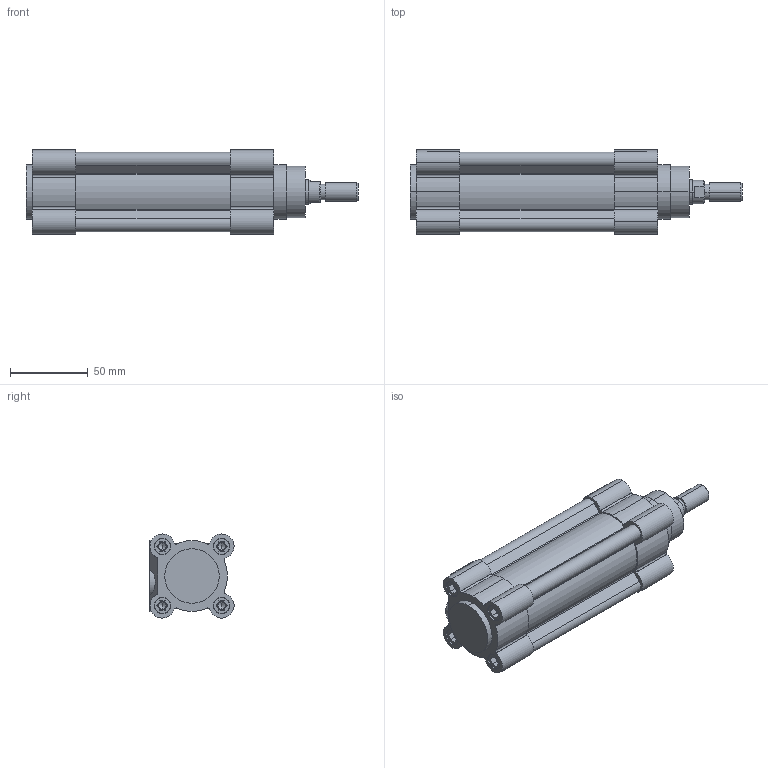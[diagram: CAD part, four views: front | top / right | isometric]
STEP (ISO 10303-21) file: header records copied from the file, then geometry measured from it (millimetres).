
FILE_DESCRIPTION (( 'STEP AP203' ), '1' );
FILE_NAME ('CPME40-50.STEP', '2025-02-24T14:16:36', ( '' ), ( '' ), 'SwSTEP 2.0', 'SolidWorks 2019', '' );
FILE_SCHEMA (( 'CONFIG_CONTROL_DESIGN' ));
Length unit declared in the file: millimetre
Products named in the file (1): CPME40-50
Bounding box: 213 x 53.99 x 53.99 mm (x, y, z)
Volume: 300805.6 mm3; surface area: 94107.3 mm2
Topology: 4 solids, 4 shells, 400 faces, 985 edges, 610 vertices
Faces by surface type: plane 191, cylinder 165, cone 44
Entity records: 11744 total; most frequent: DIRECTION 2149, CARTESIAN_POINT 2006, ORIENTED_EDGE 1930, EDGE_CURVE 965, AXIS2_PLACEMENT_3D 793, VERTEX_POINT 610, LINE 563, VECTOR 563
